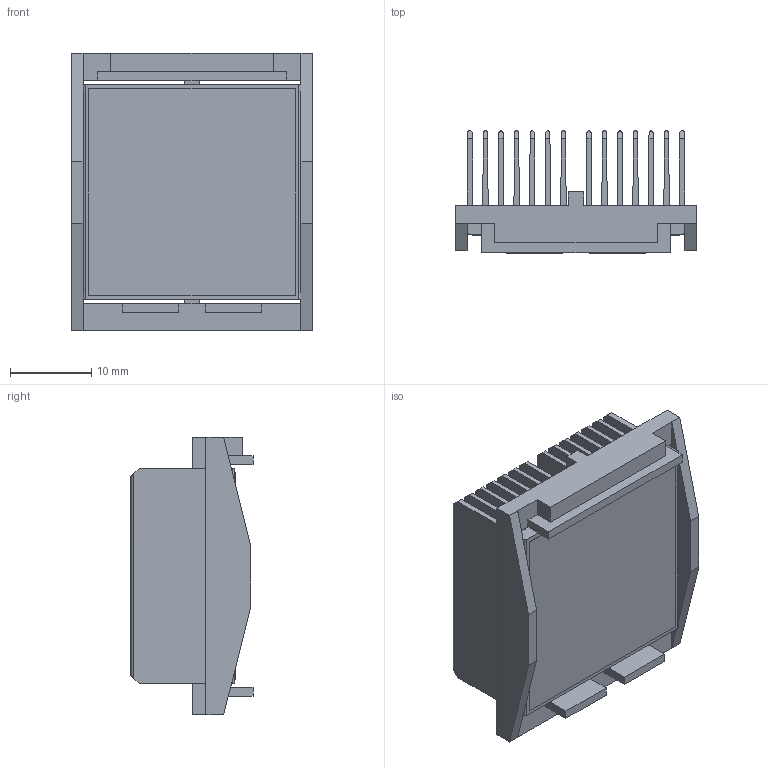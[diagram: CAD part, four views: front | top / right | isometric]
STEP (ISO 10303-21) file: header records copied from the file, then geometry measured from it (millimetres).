
FILE_DESCRIPTION (( 'STEP AP214' ), '1' );
FILE_NAME ('INL27001-13-1.7Y.STEP', '2023-02-21T21:35:58', ( '' ), ( '' ), 'SwSTEP 2.0', 'SolidWorks 2020', '' );
FILE_SCHEMA (( 'AUTOMOTIVE_DESIGN' ));
Length unit declared in the file: millimetre
Products named in the file (1): INL27001-13-1.7Y
Bounding box: 29.6 x 15 x 34.1 mm (x, y, z)
Volume: 4970.6 mm3; surface area: 12893.5 mm2
Topology: 3 solids, 3 shells, 168 faces, 488 edges, 324 vertices
Faces by surface type: plane 126, cylinder 42
Entity records: 7380 total; most frequent: CARTESIAN_POINT 1065, ORIENTED_EDGE 976, DIRECTION 854, EDGE_CURVE 488, LINE 404, VECTOR 404, VERTEX_POINT 324, AXIS2_PLACEMENT_3D 225
